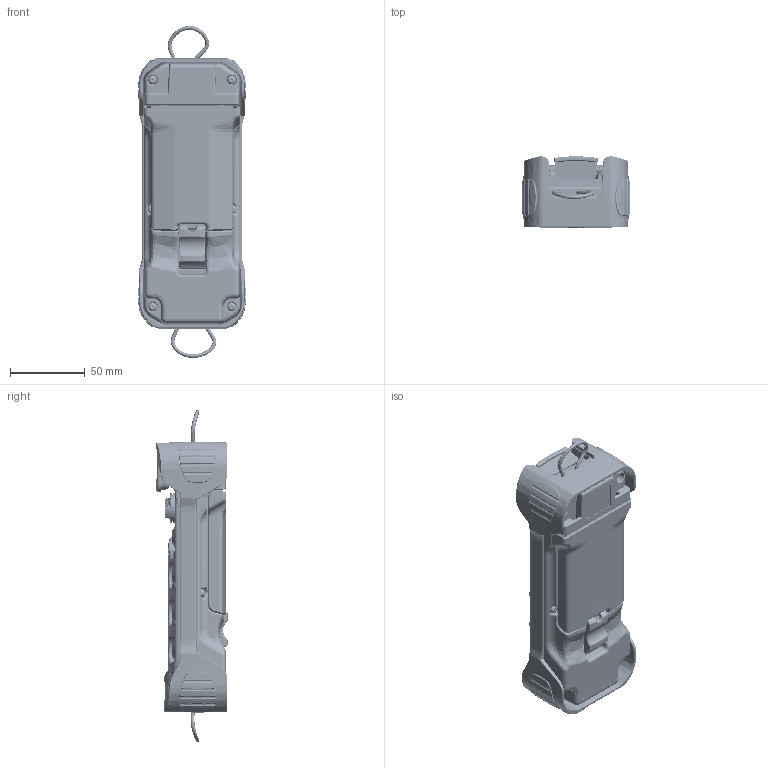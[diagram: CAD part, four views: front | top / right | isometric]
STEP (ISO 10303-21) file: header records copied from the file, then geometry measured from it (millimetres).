
FILE_DESCRIPTION (( 'STEP AP214' ), '1' );
FILE_NAME ('kepler-tx-emea_asm.STEP', '2024-01-11T14:23:02', ( 'Utilisateur Windows' ), ( '' ), 'SwSTEP 2.0', 'SolidWorks 2014', '' );
FILE_SCHEMA (( 'AUTOMOTIVE_DESIGN' ));
Length unit declared in the file: millimetre
Products named in the file (1): kepler-tx-emea_asm
Bounding box: 72.4 x 47.72 x 222.62 mm (x, y, z)
Volume: 198482.3 mm3; surface area: 178451.4 mm2
Topology: 32 solids, 32 shells, 6938 faces, 18256 edges, 11469 vertices
Faces by surface type: plane 2764, bspline 1949, cylinder 1300, cone 783, sphere 82, torus 60
Entity records: 366612 total; most frequent: CARTESIAN_POINT 148135, ORIENTED_EDGE 36302, DIRECTION 23687, EDGE_CURVE 18151, VERTEX_POINT 11469, AXIS2_PLACEMENT_3D 7902, LINE 7883, VECTOR 7883
